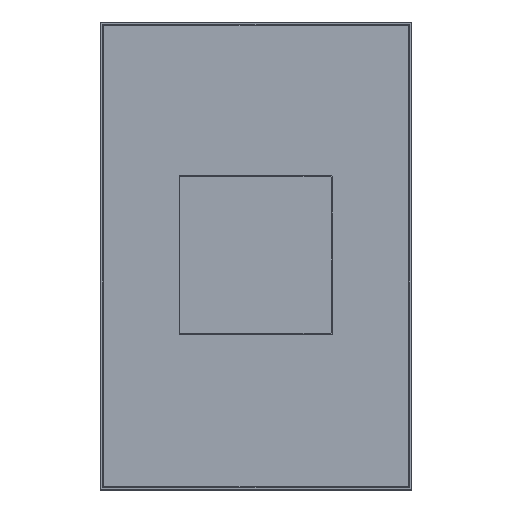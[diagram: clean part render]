
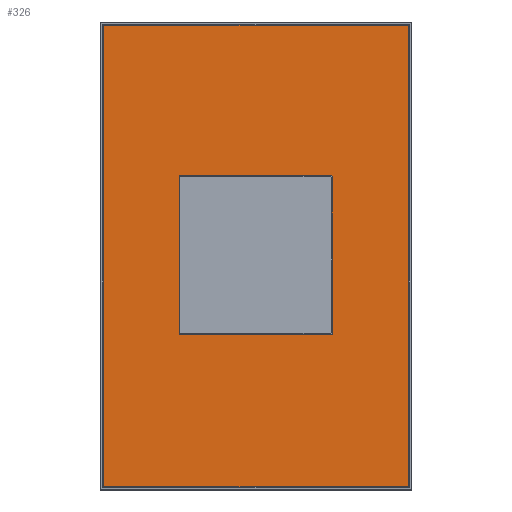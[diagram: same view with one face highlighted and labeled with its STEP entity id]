
A CAD part, top view. The second image highlights one B-rep face of the part: STEP entity #326.
In plain terms, the highlighted free-form (B-spline) face has degree [1, 1] with [2, 2] control points.
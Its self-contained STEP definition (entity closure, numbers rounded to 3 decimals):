
#117=B_SPLINE_CURVE_WITH_KNOTS('',1,(#2266,#2267),.UNSPECIFIED.,.F.,.F.,
(2,2),(0.,1.),.UNSPECIFIED.);
#120=B_SPLINE_CURVE_WITH_KNOTS('',1,(#2272,#2273),.UNSPECIFIED.,.F.,.F.,
(2,2),(0.,1.),.UNSPECIFIED.);
#123=B_SPLINE_CURVE_WITH_KNOTS('',1,(#2278,#2279),.UNSPECIFIED.,.F.,.F.,
(2,2),(0.,1.),.UNSPECIFIED.);
#138=B_SPLINE_CURVE_WITH_KNOTS('',1,(#2308,#2309),.UNSPECIFIED.,.F.,.F.,
(2,2),(0.,1.),.UNSPECIFIED.);
#326=ADVANCED_FACE('',(#414),#1302,.T.);
#414=FACE_OUTER_BOUND('',#510,.T.);
#510=EDGE_LOOP('',(#843,#844,#845,#846));
#843=ORIENTED_EDGE('',*,*,#1078,.T.);
#844=ORIENTED_EDGE('',*,*,#1063,.T.);
#845=ORIENTED_EDGE('',*,*,#1060,.T.);
#846=ORIENTED_EDGE('',*,*,#1057,.T.);
#1057=EDGE_CURVE('',#1202,#1201,#117,.T.);
#1060=EDGE_CURVE('',#1204,#1202,#120,.T.);
#1063=EDGE_CURVE('',#1206,#1204,#123,.T.);
#1078=EDGE_CURVE('',#1201,#1206,#138,.T.);
#1201=VERTEX_POINT('',#2444);
#1202=VERTEX_POINT('',#2445);
#1204=VERTEX_POINT('',#2447);
#1206=VERTEX_POINT('',#2449);
#1302=B_SPLINE_SURFACE_WITH_KNOTS('',1,1,((#2374,#2375),(#2376,#2377)),.UNSPECIFIED.,
.F.,.F.,.F.,(2,2),(2,2),(0.301,0.699),(0.369,
0.631),.UNSPECIFIED.);
#2266=CARTESIAN_POINT('',(291.02,-441.901,85.));
#2267=CARTESIAN_POINT('',(291.02,441.909,85.));
#2272=CARTESIAN_POINT('',(-292.98,-441.901,85.));
#2273=CARTESIAN_POINT('',(291.02,-441.901,85.));
#2278=CARTESIAN_POINT('',(-292.98,441.909,85.));
#2279=CARTESIAN_POINT('',(-292.98,-441.901,85.));
#2308=CARTESIAN_POINT('',(291.02,441.909,85.));
#2309=CARTESIAN_POINT('',(-292.98,441.909,85.));
#2374=CARTESIAN_POINT('',(291.02,-441.901,85.));
#2375=CARTESIAN_POINT('',(-292.98,-441.901,85.));
#2376=CARTESIAN_POINT('',(291.02,441.909,85.));
#2377=CARTESIAN_POINT('',(-292.98,441.909,85.));
#2444=CARTESIAN_POINT('',(291.02,441.909,85.));
#2445=CARTESIAN_POINT('',(291.02,-441.901,85.));
#2447=CARTESIAN_POINT('',(-292.98,-441.901,85.));
#2449=CARTESIAN_POINT('',(-292.98,441.909,85.));
